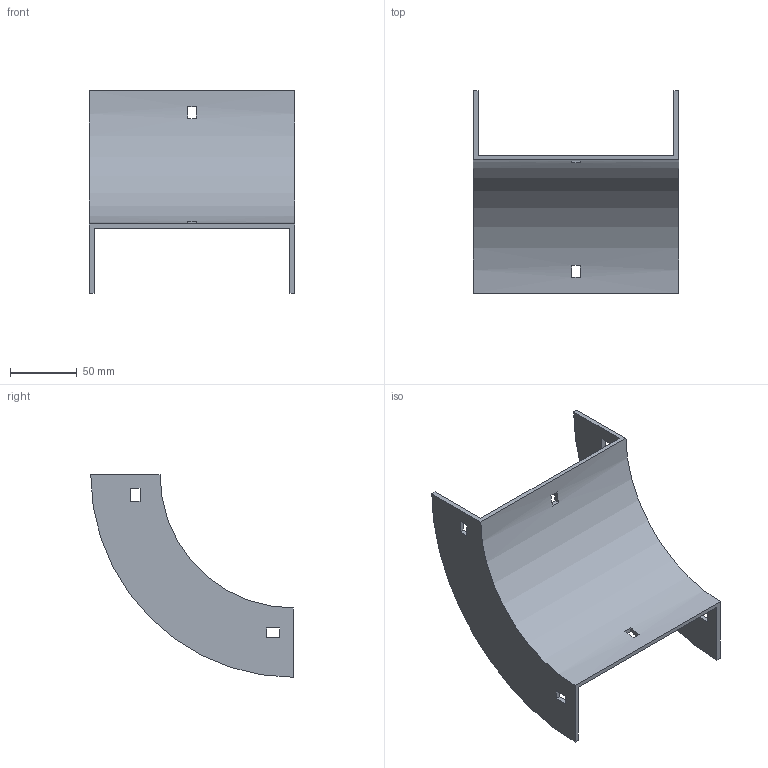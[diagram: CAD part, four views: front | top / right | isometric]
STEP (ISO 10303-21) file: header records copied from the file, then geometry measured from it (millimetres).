
FILE_DESCRIPTION (( 'STEP AP214' ), '1' );
FILE_NAME ('33B1B150.step', '2025-02-21T09:31:28', ( '' ), ( '' ), 'SwSTEP 2.0', 'SolidWorks 2023', '' );
FILE_SCHEMA (( 'AUTOMOTIVE_DESIGN' ));
Length unit declared in the file: millimetre
Products named in the file (1): 33B1B150
Bounding box: 154 x 152 x 152 mm (x, y, z)
Volume: 152879.6 mm3; surface area: 91464.9 mm2
Topology: 1 solids, 1 shells, 34 faces, 96 edges, 64 vertices
Faces by surface type: plane 30, cylinder 4
Entity records: 1143 total; most frequent: CARTESIAN_POINT 195, ORIENTED_EDGE 192, DIRECTION 182, EDGE_CURVE 96, LINE 80, VECTOR 80, VERTEX_POINT 64, AXIS2_PLACEMENT_3D 51
